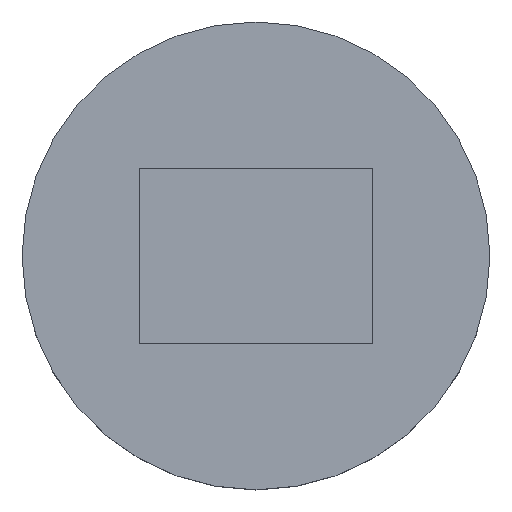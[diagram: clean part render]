
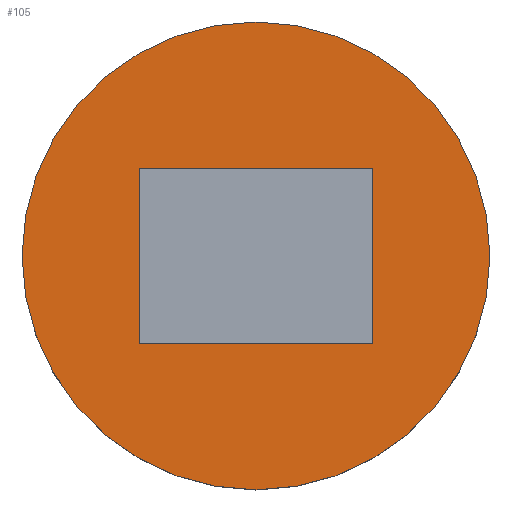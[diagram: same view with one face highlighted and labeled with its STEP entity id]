
A CAD part, top view. The second image highlights one B-rep face of the part: STEP entity #105.
In plain terms, the highlighted planar face has unit normal (0, 0, 1).
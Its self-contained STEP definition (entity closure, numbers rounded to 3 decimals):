
#21 = EDGE_CURVE('',#22,#22,#24,.T.);
#22 = VERTEX_POINT('',#23);
#23 = CARTESIAN_POINT('',(4.,0.,172.8));
#24 = SURFACE_CURVE('',#25,(#30,#42),.PCURVE_S1.);
#25 = CIRCLE('',#26,4.);
#26 = AXIS2_PLACEMENT_3D('',#27,#28,#29);
#27 = CARTESIAN_POINT('',(0.,0.,172.8));
#28 = DIRECTION('',(0.,0.,1.));
#29 = DIRECTION('',(1.,0.,-0.));
#30 = PCURVE('',#31,#36);
#31 = CYLINDRICAL_SURFACE('',#32,4.);
#32 = AXIS2_PLACEMENT_3D('',#33,#34,#35);
#33 = CARTESIAN_POINT('',(0.,0.,171.2));
#34 = DIRECTION('',(0.,0.,1.));
#35 = DIRECTION('',(1.,0.,-0.));
#36 = DEFINITIONAL_REPRESENTATION('',(#37),#41);
#37 = LINE('',#38,#39);
#38 = CARTESIAN_POINT('',(0.,1.6));
#39 = VECTOR('',#40,1.);
#40 = DIRECTION('',(1.,0.));
#41 = ( GEOMETRIC_REPRESENTATION_CONTEXT(2) 
PARAMETRIC_REPRESENTATION_CONTEXT() REPRESENTATION_CONTEXT('2D SPACE',''
  ) );
#42 = PCURVE('',#43,#48);
#43 = PLANE('',#44);
#44 = AXIS2_PLACEMENT_3D('',#45,#46,#47);
#45 = CARTESIAN_POINT('',(0.,0.,172.8));
#46 = DIRECTION('',(0.,0.,1.));
#47 = DIRECTION('',(1.,0.,-0.));
#48 = DEFINITIONAL_REPRESENTATION('',(#49),#53);
#49 = CIRCLE('',#50,4.);
#50 = AXIS2_PLACEMENT_2D('',#51,#52);
#51 = CARTESIAN_POINT('',(0.,0.));
#52 = DIRECTION('',(1.,0.));
#53 = ( GEOMETRIC_REPRESENTATION_CONTEXT(2) 
PARAMETRIC_REPRESENTATION_CONTEXT() REPRESENTATION_CONTEXT('2D SPACE',''
  ) );
#105 = ADVANCED_FACE('',(#106,#109),#43,.T.);
#106 = FACE_BOUND('',#107,.T.);
#107 = EDGE_LOOP('',(#108));
#108 = ORIENTED_EDGE('',*,*,#21,.T.);
#109 = FACE_BOUND('',#110,.T.);
#110 = EDGE_LOOP('',(#111,#141,#169,#197));
#111 = ORIENTED_EDGE('',*,*,#112,.T.);
#112 = EDGE_CURVE('',#113,#115,#117,.T.);
#113 = VERTEX_POINT('',#114);
#114 = CARTESIAN_POINT('',(-2.,-1.5,172.8));
#115 = VERTEX_POINT('',#116);
#116 = CARTESIAN_POINT('',(-2.,1.5,172.8));
#117 = SURFACE_CURVE('',#118,(#122,#129),.PCURVE_S1.);
#118 = LINE('',#119,#120);
#119 = CARTESIAN_POINT('',(-2.,-1.5,172.8));
#120 = VECTOR('',#121,1.);
#121 = DIRECTION('',(-0.,1.,0.));
#122 = PCURVE('',#43,#123);
#123 = DEFINITIONAL_REPRESENTATION('',(#124),#128);
#124 = LINE('',#125,#126);
#125 = CARTESIAN_POINT('',(-2.,-1.5));
#126 = VECTOR('',#127,1.);
#127 = DIRECTION('',(0.,1.));
#128 = ( GEOMETRIC_REPRESENTATION_CONTEXT(2) 
PARAMETRIC_REPRESENTATION_CONTEXT() REPRESENTATION_CONTEXT('2D SPACE',''
  ) );
#129 = PCURVE('',#130,#135);
#130 = PLANE('',#131);
#131 = AXIS2_PLACEMENT_3D('',#132,#133,#134);
#132 = CARTESIAN_POINT('',(-2.,-1.5,172.8));
#133 = DIRECTION('',(1.,0.,-0.));
#134 = DIRECTION('',(0.,0.,1.));
#135 = DEFINITIONAL_REPRESENTATION('',(#136),#140);
#136 = LINE('',#137,#138);
#137 = CARTESIAN_POINT('',(0.,0.));
#138 = VECTOR('',#139,1.);
#139 = DIRECTION('',(0.,-1.));
#140 = ( GEOMETRIC_REPRESENTATION_CONTEXT(2) 
PARAMETRIC_REPRESENTATION_CONTEXT() REPRESENTATION_CONTEXT('2D SPACE',''
  ) );
#141 = ORIENTED_EDGE('',*,*,#142,.T.);
#142 = EDGE_CURVE('',#115,#143,#145,.T.);
#143 = VERTEX_POINT('',#144);
#144 = CARTESIAN_POINT('',(2.,1.5,172.8));
#145 = SURFACE_CURVE('',#146,(#150,#157),.PCURVE_S1.);
#146 = LINE('',#147,#148);
#147 = CARTESIAN_POINT('',(-2.,1.5,172.8));
#148 = VECTOR('',#149,1.);
#149 = DIRECTION('',(1.,0.,-0.));
#150 = PCURVE('',#43,#151);
#151 = DEFINITIONAL_REPRESENTATION('',(#152),#156);
#152 = LINE('',#153,#154);
#153 = CARTESIAN_POINT('',(-2.,1.5));
#154 = VECTOR('',#155,1.);
#155 = DIRECTION('',(1.,0.));
#156 = ( GEOMETRIC_REPRESENTATION_CONTEXT(2) 
PARAMETRIC_REPRESENTATION_CONTEXT() REPRESENTATION_CONTEXT('2D SPACE',''
  ) );
#157 = PCURVE('',#158,#163);
#158 = PLANE('',#159);
#159 = AXIS2_PLACEMENT_3D('',#160,#161,#162);
#160 = CARTESIAN_POINT('',(-2.,1.5,172.8));
#161 = DIRECTION('',(-0.,1.,0.));
#162 = DIRECTION('',(0.,0.,1.));
#163 = DEFINITIONAL_REPRESENTATION('',(#164),#168);
#164 = LINE('',#165,#166);
#165 = CARTESIAN_POINT('',(0.,0.));
#166 = VECTOR('',#167,1.);
#167 = DIRECTION('',(0.,1.));
#168 = ( GEOMETRIC_REPRESENTATION_CONTEXT(2) 
PARAMETRIC_REPRESENTATION_CONTEXT() REPRESENTATION_CONTEXT('2D SPACE',''
  ) );
#169 = ORIENTED_EDGE('',*,*,#170,.F.);
#170 = EDGE_CURVE('',#171,#143,#173,.T.);
#171 = VERTEX_POINT('',#172);
#172 = CARTESIAN_POINT('',(2.,-1.5,172.8));
#173 = SURFACE_CURVE('',#174,(#178,#185),.PCURVE_S1.);
#174 = LINE('',#175,#176);
#175 = CARTESIAN_POINT('',(2.,-1.5,172.8));
#176 = VECTOR('',#177,1.);
#177 = DIRECTION('',(-0.,1.,0.));
#178 = PCURVE('',#43,#179);
#179 = DEFINITIONAL_REPRESENTATION('',(#180),#184);
#180 = LINE('',#181,#182);
#181 = CARTESIAN_POINT('',(2.,-1.5));
#182 = VECTOR('',#183,1.);
#183 = DIRECTION('',(0.,1.));
#184 = ( GEOMETRIC_REPRESENTATION_CONTEXT(2) 
PARAMETRIC_REPRESENTATION_CONTEXT() REPRESENTATION_CONTEXT('2D SPACE',''
  ) );
#185 = PCURVE('',#186,#191);
#186 = PLANE('',#187);
#187 = AXIS2_PLACEMENT_3D('',#188,#189,#190);
#188 = CARTESIAN_POINT('',(2.,-1.5,172.8));
#189 = DIRECTION('',(1.,0.,-0.));
#190 = DIRECTION('',(0.,0.,1.));
#191 = DEFINITIONAL_REPRESENTATION('',(#192),#196);
#192 = LINE('',#193,#194);
#193 = CARTESIAN_POINT('',(0.,0.));
#194 = VECTOR('',#195,1.);
#195 = DIRECTION('',(0.,-1.));
#196 = ( GEOMETRIC_REPRESENTATION_CONTEXT(2) 
PARAMETRIC_REPRESENTATION_CONTEXT() REPRESENTATION_CONTEXT('2D SPACE',''
  ) );
#197 = ORIENTED_EDGE('',*,*,#198,.F.);
#198 = EDGE_CURVE('',#113,#171,#199,.T.);
#199 = SURFACE_CURVE('',#200,(#204,#211),.PCURVE_S1.);
#200 = LINE('',#201,#202);
#201 = CARTESIAN_POINT('',(-2.,-1.5,172.8));
#202 = VECTOR('',#203,1.);
#203 = DIRECTION('',(1.,0.,-0.));
#204 = PCURVE('',#43,#205);
#205 = DEFINITIONAL_REPRESENTATION('',(#206),#210);
#206 = LINE('',#207,#208);
#207 = CARTESIAN_POINT('',(-2.,-1.5));
#208 = VECTOR('',#209,1.);
#209 = DIRECTION('',(1.,0.));
#210 = ( GEOMETRIC_REPRESENTATION_CONTEXT(2) 
PARAMETRIC_REPRESENTATION_CONTEXT() REPRESENTATION_CONTEXT('2D SPACE',''
  ) );
#211 = PCURVE('',#212,#217);
#212 = PLANE('',#213);
#213 = AXIS2_PLACEMENT_3D('',#214,#215,#216);
#214 = CARTESIAN_POINT('',(-2.,-1.5,172.8));
#215 = DIRECTION('',(-0.,1.,0.));
#216 = DIRECTION('',(0.,0.,1.));
#217 = DEFINITIONAL_REPRESENTATION('',(#218),#222);
#218 = LINE('',#219,#220);
#219 = CARTESIAN_POINT('',(0.,0.));
#220 = VECTOR('',#221,1.);
#221 = DIRECTION('',(0.,1.));
#222 = ( GEOMETRIC_REPRESENTATION_CONTEXT(2) 
PARAMETRIC_REPRESENTATION_CONTEXT() REPRESENTATION_CONTEXT('2D SPACE',''
  ) );
